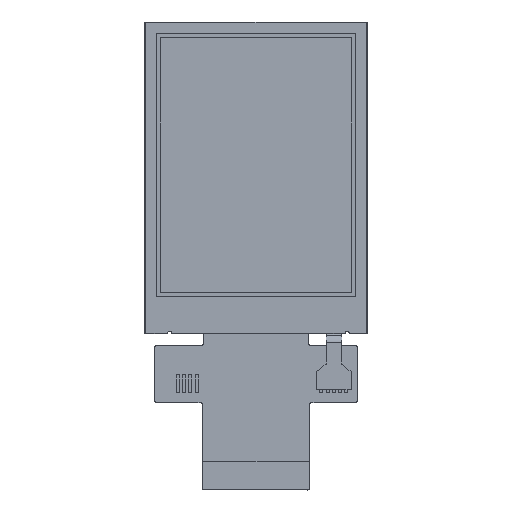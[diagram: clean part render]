
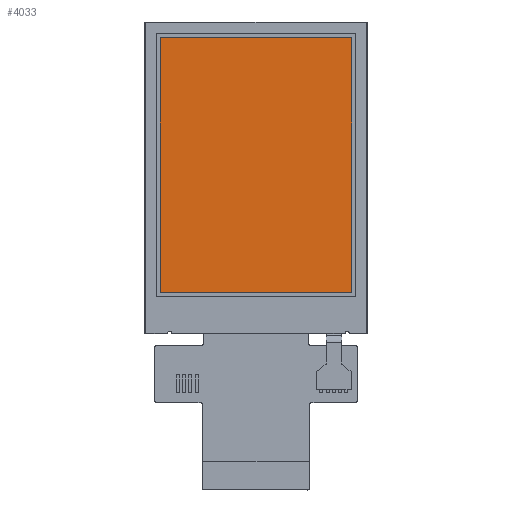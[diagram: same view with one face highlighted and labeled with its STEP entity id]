
A CAD part, top view. The second image highlights one B-rep face of the part: STEP entity #4033.
In plain terms, the highlighted planar face has unit normal (0, 0, 1).
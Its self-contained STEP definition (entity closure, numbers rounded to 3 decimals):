
#121 = LINE ( 'NONE', #343, #6107 ) ;
#193 = ORIENTED_EDGE ( 'NONE', *, *, #4259, .T. ) ;
#343 = CARTESIAN_POINT ( 'NONE',  ( 59.555, 71.937, -0.16 ) ) ;
#3081 = ORIENTED_EDGE ( 'NONE', *, *, #17630, .T. ) ;
#4033 = ADVANCED_FACE ( 'NONE', ( #5213 ), #13649, .T. ) ;
#4061 = CARTESIAN_POINT ( 'NONE',  ( 96.275, 22.977, -0.16 ) ) ;
#4259 = EDGE_CURVE ( 'NONE', #15451, #5336, #8085, .T. ) ;
#5213 = FACE_OUTER_BOUND ( 'NONE', #19733, .T. ) ;
#5336 = VERTEX_POINT ( 'NONE', #11008 ) ;
#6107 = VECTOR ( 'NONE', #18779, 1000. ) ;
#6747 = VECTOR ( 'NONE', #21311, 1000. ) ;
#6880 = DIRECTION ( 'NONE',  ( 0., 0., 1. ) ) ;
#7280 = CARTESIAN_POINT ( 'NONE',  ( 96.275, 71.937, -0.16 ) ) ;
#8085 = LINE ( 'NONE', #18406, #6747 ) ;
#9557 = CARTESIAN_POINT ( 'NONE',  ( 59.555, 22.977, -0.16 ) ) ;
#9872 = LINE ( 'NONE', #9557, #21528 ) ;
#10466 = ORIENTED_EDGE ( 'NONE', *, *, #17530, .T. ) ;
#11008 = CARTESIAN_POINT ( 'NONE',  ( 59.555, 71.937, -0.16 ) ) ;
#11482 = LINE ( 'NONE', #18559, #12123 ) ;
#12123 = VECTOR ( 'NONE', #16890, 1000. ) ;
#13649 = PLANE ( 'NONE',  #19514 ) ;
#14158 = VERTEX_POINT ( 'NONE', #20049 ) ;
#14805 = EDGE_CURVE ( 'NONE', #14158, #17277, #9872, .T. ) ;
#15425 = CARTESIAN_POINT ( 'NONE',  ( 77.915, 45.457, -0.16 ) ) ;
#15451 = VERTEX_POINT ( 'NONE', #7280 ) ;
#16890 = DIRECTION ( 'NONE',  ( 0., 1., 0. ) ) ;
#17277 = VERTEX_POINT ( 'NONE', #4061 ) ;
#17530 = EDGE_CURVE ( 'NONE', #17277, #15451, #11482, .T. ) ;
#17630 = EDGE_CURVE ( 'NONE', #5336, #14158, #121, .T. ) ;
#18406 = CARTESIAN_POINT ( 'NONE',  ( 96.275, 71.937, -0.16 ) ) ;
#18419 = DIRECTION ( 'NONE',  ( 1., 0., 0. ) ) ;
#18559 = CARTESIAN_POINT ( 'NONE',  ( 96.275, 22.977, -0.16 ) ) ;
#18779 = DIRECTION ( 'NONE',  ( 0., -1., 0. ) ) ;
#19100 = ORIENTED_EDGE ( 'NONE', *, *, #14805, .T. ) ;
#19514 = AXIS2_PLACEMENT_3D ( 'NONE', #15425, #6880, #20419 ) ;
#19733 = EDGE_LOOP ( 'NONE', ( #3081, #19100, #10466, #193 ) ) ;
#20049 = CARTESIAN_POINT ( 'NONE',  ( 59.555, 22.977, -0.16 ) ) ;
#20419 = DIRECTION ( 'NONE',  ( 0., -1., 0. ) ) ;
#21311 = DIRECTION ( 'NONE',  ( -1., 0., 0. ) ) ;
#21528 = VECTOR ( 'NONE', #18419, 1000. ) ;
